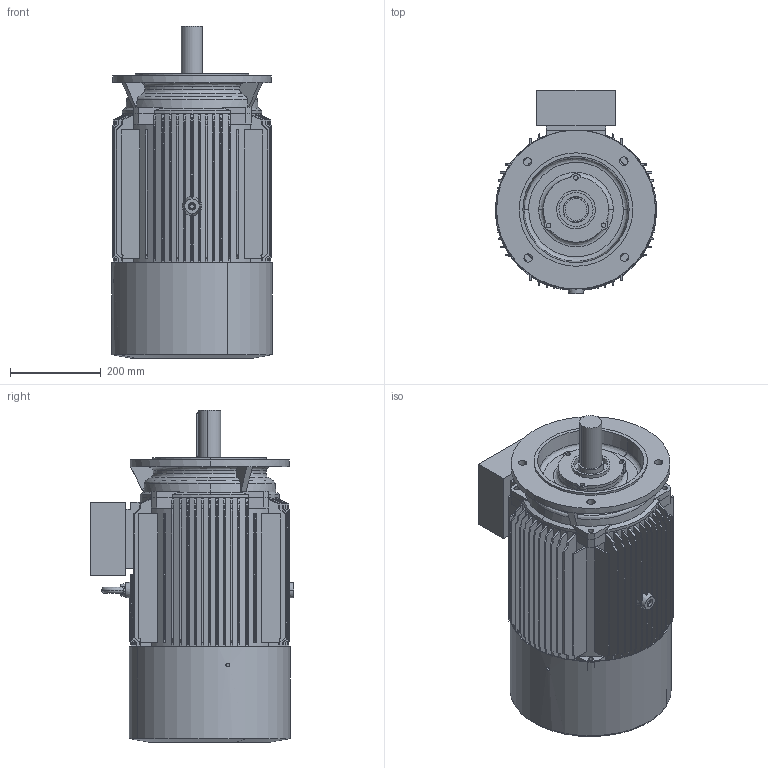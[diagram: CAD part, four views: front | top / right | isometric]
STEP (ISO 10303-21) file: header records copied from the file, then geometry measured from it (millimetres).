
FILE_DESCRIPTION (( 'STEP AP214' ), '1' );
FILE_NAME ('M3-180L-FF-B5.STEP', '2019-05-24T09:43:26', ( '' ), ( '' ), 'SwSTEP 2.0', 'SolidWorks 2012', '' );
FILE_SCHEMA (( 'AUTOMOTIVE_DESIGN' ));
Length unit declared in the file: millimetre
Products named in the file (7): Y2-180-4.6.8Ã¦Íß¦ð-Ô©Ã_-¼+¤; Y2-180C+ﾎA+ｳﾍﾟｦｰ+ｳ_-ｼ+､; Y2-180-4.6.8-ｦﾈﾁﾂ-ｩﾃ_-ｼ+､; Y2-180ﾀiﾍ_-ｼ+､; Y2-180LB5+ｷﾎｨ_-ｼ+､; Eyebolts GB_GB_FASTENER_SCREWS_FRS M12; M3-180L-FF-B5
Assembly tree (6 placements, depth 2):
  M3-180L-FF-B5
    Eyebolts GB_GB_FASTENER_SCREWS_FRS M12
    Y2-180LB5+ｷﾎｨ_-ｼ+､
    Y2-180ﾀiﾍ_-ｼ+､
    Y2-180-4.6.8-ｦﾈﾁﾂ-ｩﾃ_-ｼ+､
    Y2-180C+ﾎA+ｳﾍﾟｦｰ+ｳ_-ｼ+､
    Y2-180-4.6.8Ã¦Íß¦ð-Ô©Ã_-¼+¤
Bounding box: 354.23 x 448 x 731.5 mm (x, y, z)
Volume: 11016004.7 mm3; surface area: 2786880.2 mm2
Topology: 7 solids, 7 shells, 774 faces, 2065 edges, 1365 vertices
Faces by surface type: cylinder 265, plane 242, cone 221, bspline 46
Entity records: 31525 total; most frequent: CARTESIAN_POINT 12498, ORIENTED_EDGE 4130, DIRECTION 3613, EDGE_CURVE 2065, AXIS2_PLACEMENT_3D 1406, VERTEX_POINT 1365, EDGE_LOOP 894, LINE 801
